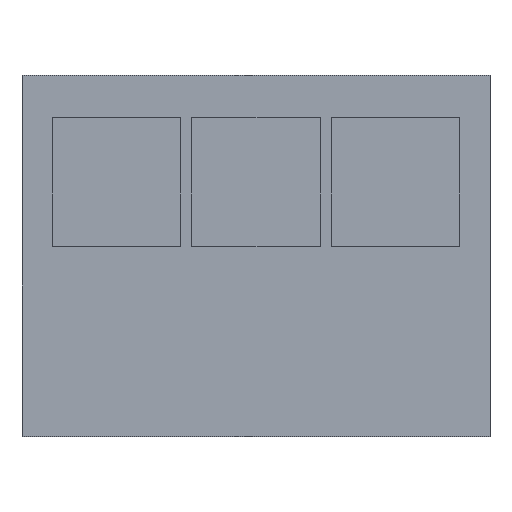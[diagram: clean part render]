
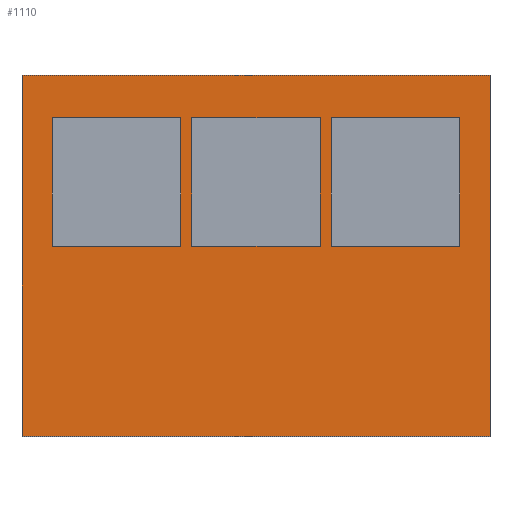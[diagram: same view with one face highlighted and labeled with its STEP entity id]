
A CAD part, top view. The second image highlights one B-rep face of the part: STEP entity #1110.
In plain terms, the highlighted planar face has unit normal (0, 0, 1).
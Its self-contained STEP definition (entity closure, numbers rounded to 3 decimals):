
#6 = CARTESIAN_POINT ( 'NONE',  ( 1.695, 0.08, 0. ) ) ;
#19 = CARTESIAN_POINT ( 'NONE',  ( -0.625, 1.15, 0. ) ) ;
#24 = LINE ( 'NONE', #1084, #1793 ) ;
#27 = VERTEX_POINT ( 'NONE', #1820 ) ;
#28 = EDGE_CURVE ( 'NONE', #1379, #2116, #409, .T. ) ;
#31 = LINE ( 'NONE', #384, #1322 ) ;
#34 = FACE_BOUND ( 'NONE', #73, .T. ) ;
#47 = VECTOR ( 'NONE', #1570, 1000. ) ;
#69 = VERTEX_POINT ( 'NONE', #6 ) ;
#73 = EDGE_LOOP ( 'NONE', ( #647, #659, #1433, #2172 ) ) ;
#147 = DIRECTION ( 'NONE',  ( 1., 0., 0. ) ) ;
#168 = DIRECTION ( 'NONE',  ( -1., 0., 0. ) ) ;
#178 = CARTESIAN_POINT ( 'NONE',  ( 0.625, 0.08, 0. ) ) ;
#196 = VECTOR ( 'NONE', #787, 1000. ) ;
#265 = EDGE_CURVE ( 'NONE', #1598, #434, #1212, .T. ) ;
#280 = VECTOR ( 'NONE', #1730, 1000. ) ;
#322 = CARTESIAN_POINT ( 'NONE',  ( 1.945, -1.5, 0. ) ) ;
#353 = FACE_OUTER_BOUND ( 'NONE', #1031, .T. ) ;
#358 = DIRECTION ( 'NONE',  ( 1., 0., 0. ) ) ;
#370 = VERTEX_POINT ( 'NONE', #1251 ) ;
#374 = FACE_BOUND ( 'NONE', #1341, .T. ) ;
#384 = CARTESIAN_POINT ( 'NONE',  ( 1.945, 1.5, 0. ) ) ;
#409 = LINE ( 'NONE', #1127, #196 ) ;
#426 = EDGE_CURVE ( 'NONE', #434, #1176, #2016, .T. ) ;
#434 = VERTEX_POINT ( 'NONE', #1442 ) ;
#503 = ORIENTED_EDGE ( 'NONE', *, *, #1879, .F. ) ;
#506 = ORIENTED_EDGE ( 'NONE', *, *, #28, .F. ) ;
#522 = VECTOR ( 'NONE', #1422, 1000. ) ;
#526 = ORIENTED_EDGE ( 'NONE', *, *, #1019, .T. ) ;
#531 = CARTESIAN_POINT ( 'NONE',  ( -0.625, 0.08, 0. ) ) ;
#544 = PLANE ( 'NONE',  #1486 ) ;
#560 = CARTESIAN_POINT ( 'NONE',  ( -0.535, 0., 0. ) ) ;
#578 = ORIENTED_EDGE ( 'NONE', *, *, #944, .T. ) ;
#599 = VERTEX_POINT ( 'NONE', #531 ) ;
#608 = VECTOR ( 'NONE', #358, 1000. ) ;
#647 = ORIENTED_EDGE ( 'NONE', *, *, #265, .F. ) ;
#659 = ORIENTED_EDGE ( 'NONE', *, *, #1248, .F. ) ;
#665 = ORIENTED_EDGE ( 'NONE', *, *, #1216, .T. ) ;
#682 = VERTEX_POINT ( 'NONE', #178 ) ;
#704 = LINE ( 'NONE', #883, #1350 ) ;
#712 = DIRECTION ( 'NONE',  ( -1., 0., 0. ) ) ;
#727 = EDGE_CURVE ( 'NONE', #69, #1149, #1854, .T. ) ;
#728 = DIRECTION ( 'NONE',  ( 0., 1., 0. ) ) ;
#787 = DIRECTION ( 'NONE',  ( 0., -1., 0. ) ) ;
#794 = VECTOR ( 'NONE', #1047, 1000. ) ;
#810 = CARTESIAN_POINT ( 'NONE',  ( 0., 0.08, 0. ) ) ;
#838 = CARTESIAN_POINT ( 'NONE',  ( -0.625, 0., 0. ) ) ;
#841 = DIRECTION ( 'NONE',  ( 1., 0., 0. ) ) ;
#845 = DIRECTION ( 'NONE',  ( 0., 1., 0. ) ) ;
#857 = VECTOR ( 'NONE', #845, 1000. ) ;
#883 = CARTESIAN_POINT ( 'NONE',  ( -1.945, 1.5, 0. ) ) ;
#908 = LINE ( 'NONE', #1408, #522 ) ;
#911 = VERTEX_POINT ( 'NONE', #322 ) ;
#912 = DIRECTION ( 'NONE',  ( 0., 0., 1. ) ) ;
#920 = VERTEX_POINT ( 'NONE', #1027 ) ;
#944 = EDGE_CURVE ( 'NONE', #1960, #911, #1186, .T. ) ;
#949 = EDGE_CURVE ( 'NONE', #1176, #920, #1217, .T. ) ;
#956 = ORIENTED_EDGE ( 'NONE', *, *, #1012, .F. ) ;
#983 = EDGE_CURVE ( 'NONE', #2116, #599, #2093, .T. ) ;
#1012 = EDGE_CURVE ( 'NONE', #2069, #1379, #1240, .T. ) ;
#1019 = EDGE_CURVE ( 'NONE', #370, #27, #704, .T. ) ;
#1027 = CARTESIAN_POINT ( 'NONE',  ( 0.535, 1.15, 0. ) ) ;
#1031 = EDGE_LOOP ( 'NONE', ( #1645, #526, #665, #578 ) ) ;
#1039 = VECTOR ( 'NONE', #147, 1000. ) ;
#1041 = CARTESIAN_POINT ( 'NONE',  ( 0., 1.15, 0. ) ) ;
#1047 = DIRECTION ( 'NONE',  ( 1., 0., 0. ) ) ;
#1059 = FACE_BOUND ( 'NONE', #1281, .T. ) ;
#1075 = LINE ( 'NONE', #1605, #1520 ) ;
#1084 = CARTESIAN_POINT ( 'NONE',  ( 0.625, 0., 0. ) ) ;
#1110 = ADVANCED_FACE ( 'NONE', ( #1059, #34, #374, #353 ), #544, .T. ) ;
#1127 = CARTESIAN_POINT ( 'NONE',  ( -1.695, 0., 0. ) ) ;
#1149 = VERTEX_POINT ( 'NONE', #1927 ) ;
#1163 = CARTESIAN_POINT ( 'NONE',  ( 0., 0.08, 0. ) ) ;
#1169 = CARTESIAN_POINT ( 'NONE',  ( -0.535, 1.15, 0. ) ) ;
#1176 = VERTEX_POINT ( 'NONE', #1247 ) ;
#1186 = LINE ( 'NONE', #1696, #1039 ) ;
#1212 = LINE ( 'NONE', #560, #1594 ) ;
#1216 = EDGE_CURVE ( 'NONE', #27, #1960, #908, .T. ) ;
#1217 = LINE ( 'NONE', #1537, #857 ) ;
#1240 = LINE ( 'NONE', #1041, #47 ) ;
#1247 = CARTESIAN_POINT ( 'NONE',  ( 0.535, 0.08, 0. ) ) ;
#1248 = EDGE_CURVE ( 'NONE', #920, #1598, #1075, .T. ) ;
#1251 = CARTESIAN_POINT ( 'NONE',  ( 1.945, 1.5, 0. ) ) ;
#1264 = CARTESIAN_POINT ( 'NONE',  ( -1.695, 0.08, 0. ) ) ;
#1268 = VECTOR ( 'NONE', #728, 1000. ) ;
#1281 = EDGE_LOOP ( 'NONE', ( #506, #956, #1877, #1953 ) ) ;
#1322 = VECTOR ( 'NONE', #1985, 1000. ) ;
#1341 = EDGE_LOOP ( 'NONE', ( #2025, #503, #1857, #1447 ) ) ;
#1344 = VERTEX_POINT ( 'NONE', #1835 ) ;
#1350 = VECTOR ( 'NONE', #168, 1000. ) ;
#1352 = LINE ( 'NONE', #2049, #794 ) ;
#1379 = VERTEX_POINT ( 'NONE', #1463 ) ;
#1408 = CARTESIAN_POINT ( 'NONE',  ( -1.945, 1.5, 0. ) ) ;
#1422 = DIRECTION ( 'NONE',  ( 0., -1., 0. ) ) ;
#1433 = ORIENTED_EDGE ( 'NONE', *, *, #949, .F. ) ;
#1442 = CARTESIAN_POINT ( 'NONE',  ( -0.535, 0.08, 0. ) ) ;
#1447 = ORIENTED_EDGE ( 'NONE', *, *, #1805, .F. ) ;
#1463 = CARTESIAN_POINT ( 'NONE',  ( -1.695, 1.15, 0. ) ) ;
#1464 = CARTESIAN_POINT ( 'NONE',  ( 0., 1.15, 0. ) ) ;
#1486 = AXIS2_PLACEMENT_3D ( 'NONE', #2138, #912, #841 ) ;
#1513 = EDGE_CURVE ( 'NONE', #1344, #682, #24, .T. ) ;
#1520 = VECTOR ( 'NONE', #712, 1000. ) ;
#1537 = CARTESIAN_POINT ( 'NONE',  ( 0.535, 0., 0. ) ) ;
#1570 = DIRECTION ( 'NONE',  ( -1., 0., 0. ) ) ;
#1594 = VECTOR ( 'NONE', #2164, 1000. ) ;
#1598 = VERTEX_POINT ( 'NONE', #1169 ) ;
#1603 = VECTOR ( 'NONE', #1608, 1000. ) ;
#1605 = CARTESIAN_POINT ( 'NONE',  ( 0., 1.15, 0. ) ) ;
#1608 = DIRECTION ( 'NONE',  ( -1., 0., 0. ) ) ;
#1625 = EDGE_CURVE ( 'NONE', #599, #2069, #1705, .T. ) ;
#1645 = ORIENTED_EDGE ( 'NONE', *, *, #2128, .T. ) ;
#1690 = CARTESIAN_POINT ( 'NONE',  ( -1.945, -1.5, 0. ) ) ;
#1696 = CARTESIAN_POINT ( 'NONE',  ( -1.945, -1.5, 0. ) ) ;
#1705 = LINE ( 'NONE', #838, #280 ) ;
#1730 = DIRECTION ( 'NONE',  ( 0., 1., 0. ) ) ;
#1793 = VECTOR ( 'NONE', #1795, 1000. ) ;
#1795 = DIRECTION ( 'NONE',  ( 0., -1., 0. ) ) ;
#1805 = EDGE_CURVE ( 'NONE', #682, #69, #1352, .T. ) ;
#1811 = CARTESIAN_POINT ( 'NONE',  ( 1.695, 0., 0. ) ) ;
#1820 = CARTESIAN_POINT ( 'NONE',  ( -1.945, 1.5, 0. ) ) ;
#1835 = CARTESIAN_POINT ( 'NONE',  ( 0.625, 1.15, 0. ) ) ;
#1842 = LINE ( 'NONE', #1464, #1603 ) ;
#1854 = LINE ( 'NONE', #1811, #1268 ) ;
#1857 = ORIENTED_EDGE ( 'NONE', *, *, #727, .F. ) ;
#1877 = ORIENTED_EDGE ( 'NONE', *, *, #1625, .F. ) ;
#1879 = EDGE_CURVE ( 'NONE', #1149, #1344, #1842, .T. ) ;
#1927 = CARTESIAN_POINT ( 'NONE',  ( 1.695, 1.15, 0. ) ) ;
#1953 = ORIENTED_EDGE ( 'NONE', *, *, #983, .F. ) ;
#1960 = VERTEX_POINT ( 'NONE', #1690 ) ;
#1985 = DIRECTION ( 'NONE',  ( 0., 1., 0. ) ) ;
#2016 = LINE ( 'NONE', #1163, #608 ) ;
#2025 = ORIENTED_EDGE ( 'NONE', *, *, #1513, .F. ) ;
#2049 = CARTESIAN_POINT ( 'NONE',  ( 0., 0.08, 0. ) ) ;
#2069 = VERTEX_POINT ( 'NONE', #19 ) ;
#2093 = LINE ( 'NONE', #810, #2259 ) ;
#2116 = VERTEX_POINT ( 'NONE', #1264 ) ;
#2128 = EDGE_CURVE ( 'NONE', #911, #370, #31, .T. ) ;
#2138 = CARTESIAN_POINT ( 'NONE',  ( 0., 0., 0. ) ) ;
#2164 = DIRECTION ( 'NONE',  ( 0., -1., 0. ) ) ;
#2172 = ORIENTED_EDGE ( 'NONE', *, *, #426, .F. ) ;
#2219 = DIRECTION ( 'NONE',  ( 1., 0., 0. ) ) ;
#2259 = VECTOR ( 'NONE', #2219, 1000. ) ;
